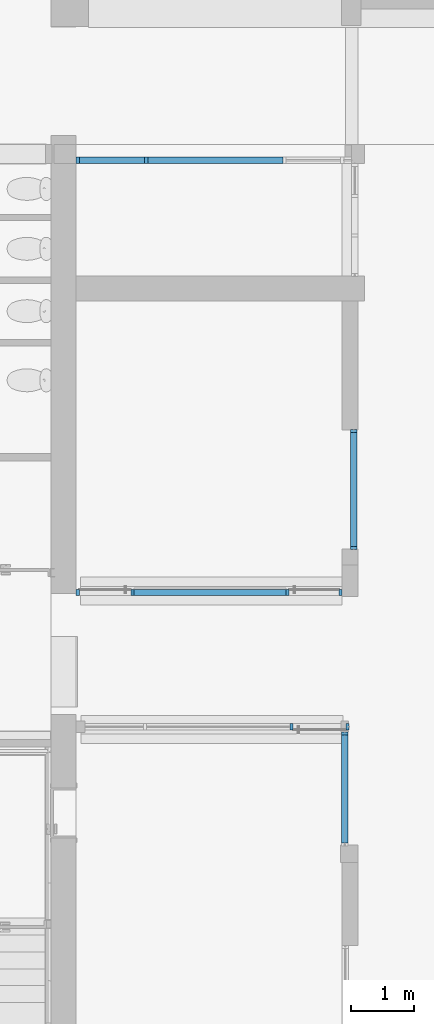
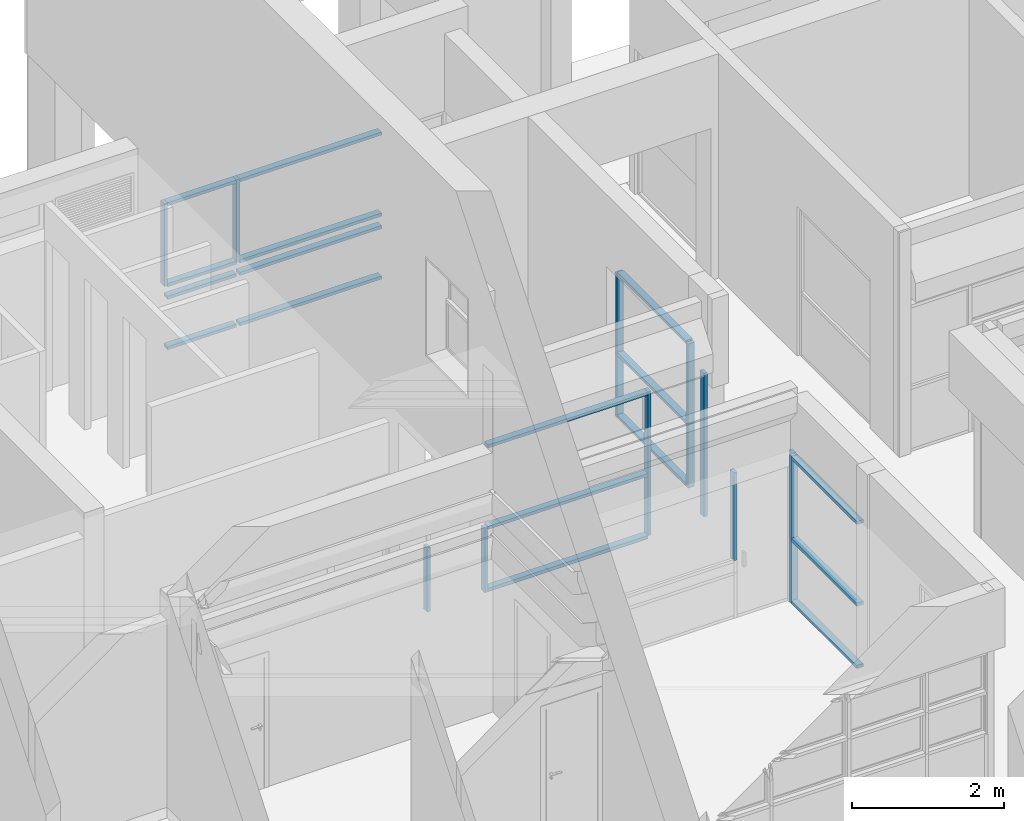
# One storey, part 4 of 117: 32 members, 5 elements without a shape of their own.
"""IFC4 building model written with IfcOpenShell, lengths in metres."""

from ifc_helpers import new_model, entity, si_unit, converted_unit, derived_unit, direction, frame, origin, place, context, subcontext, project, spatial, indexed_curve, outline, extrude, source, transform, mapped, material, type_object, type_shapes, element, aggregate, save


model = new_model("IFC4")

# Units and contexts
model_context = context("Model", 3, precision=1e-05, world=origin(), true_north=direction((6.123031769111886e-17, 1.0)))
body_context = subcontext(model_context, "Body", "Model", "MODEL_VIEW")
ifc_project = project(units=[si_unit("LENGTHUNIT", "METRE"), si_unit("AREAUNIT", "SQUARE_METRE"), si_unit("VOLUMEUNIT", "CUBIC_METRE"), converted_unit("PLANEANGLEUNIT", "DEGREE", entity("IfcRatioMeasure", 0.017453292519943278), si_unit("PLANEANGLEUNIT", "RADIAN"), dimensions=[0, 0, 0, 0, 0, 0, 0]), si_unit("MASSUNIT", "GRAM", prefix="KILO"), derived_unit("MASSDENSITYUNIT", [(si_unit("MASSUNIT", "GRAM", prefix="KILO"), 1), (si_unit("LENGTHUNIT", "METRE"), -3)]), derived_unit("MOMENTOFINERTIAUNIT", [(si_unit("LENGTHUNIT", "METRE"), 4)]), si_unit("TIMEUNIT", "SECOND"), si_unit("FREQUENCYUNIT", "HERTZ"), si_unit("THERMODYNAMICTEMPERATUREUNIT", "DEGREE_CELSIUS"), derived_unit("THERMALTRANSMITTANCEUNIT", [(si_unit("MASSUNIT", "GRAM", prefix="KILO"), 1), (si_unit("THERMODYNAMICTEMPERATUREUNIT", "KELVIN"), -1), (si_unit("TIMEUNIT", "SECOND"), -3)]), derived_unit("VOLUMETRICFLOWRATEUNIT", [(si_unit("LENGTHUNIT", "METRE"), 3), (si_unit("TIMEUNIT", "SECOND"), -1)]), derived_unit("MASSFLOWRATEUNIT", [(si_unit("MASSUNIT", "GRAM", prefix="KILO"), 1), (si_unit("TIMEUNIT", "SECOND"), -1)]), derived_unit("ROTATIONALFREQUENCYUNIT", [(si_unit("TIMEUNIT", "SECOND"), -1)]), si_unit("ELECTRICCURRENTUNIT", "AMPERE"), si_unit("ELECTRICVOLTAGEUNIT", "VOLT"), si_unit("POWERUNIT", "WATT"), si_unit("FORCEUNIT", "NEWTON", prefix="KILO"), si_unit("ILLUMINANCEUNIT", "LUX"), si_unit("LUMINOUSFLUXUNIT", "LUMEN"), si_unit("LUMINOUSINTENSITYUNIT", "CANDELA"), derived_unit("USERDEFINED", [(si_unit("MASSUNIT", "GRAM", prefix="KILO"), -1), (si_unit("LENGTHUNIT", "METRE"), -2), (si_unit("TIMEUNIT", "SECOND"), 3), (si_unit("LUMINOUSFLUXUNIT", "LUMEN"), 1)]), derived_unit("SOUNDPOWERUNIT", [(si_unit("MASSUNIT", "GRAM", prefix="KILO"), 1), (si_unit("LENGTHUNIT", "METRE"), 2), (si_unit("TIMEUNIT", "SECOND"), -3)]), derived_unit("SOUNDPRESSUREUNIT", [(si_unit("MASSUNIT", "GRAM", prefix="KILO"), 1), (si_unit("LENGTHUNIT", "METRE"), -1), (si_unit("TIMEUNIT", "SECOND"), -2)]), derived_unit("LINEARVELOCITYUNIT", [(si_unit("LENGTHUNIT", "METRE"), 1), (si_unit("TIMEUNIT", "SECOND"), -1)]), si_unit("PRESSUREUNIT", "PASCAL"), derived_unit("USERDEFINED", [(si_unit("LENGTHUNIT", "METRE"), -2), (si_unit("MASSUNIT", "GRAM", prefix="KILO"), 1), (si_unit("TIMEUNIT", "SECOND"), -2)]), derived_unit("LINEARFORCEUNIT", [(si_unit("MASSUNIT", "GRAM", prefix="KILO"), 1), (si_unit("LENGTHUNIT", "METRE"), 1), (si_unit("TIMEUNIT", "SECOND"), -2), (si_unit("LENGTHUNIT", "METRE"), -1)]), derived_unit("PLANARFORCEUNIT", [(si_unit("MASSUNIT", "GRAM", prefix="KILO"), 1), (si_unit("LENGTHUNIT", "METRE"), 1), (si_unit("TIMEUNIT", "SECOND"), -2), (si_unit("LENGTHUNIT", "METRE"), -2)])], contexts=[model_context])

# Site, building, storey
site_placement = place(None, origin())
site = spatial("IfcSite", under=ifc_project, at=site_placement, Name="Superficie", CompositionType="ELEMENT")
building_placement = place(site_placement, origin())
building = spatial("IfcBuilding", under=site, at=building_placement, CompositionType="ELEMENT")
storey_placement = place(building_placement, origin())
storey = spatial("IfcBuildingStorey", under=building, at=storey_placement, Name="Nivel 0", CompositionType="ELEMENT", Elevation=0.0)

# Curtain wall, member
curtain_wall_type = type_object("IfcCurtainWallType", Name="Muro cortina:Muro cortina - simple", PredefinedType="NOTDEFINED")
curtain_wall_1_placement = place(storey_placement, origin())
curtain_wall_1 = element("IfcCurtainWall", 1, at=curtain_wall_1_placement, inside=storey, type_object=curtain_wall_type, Name="Muro cortina:Muro cortina - simple", ObjectType="Muro cortina:Muro cortina - simple", PredefinedType="NOTDEFINED")
ifc_material = material(Name="<Unnamed>")
member_type_1 = type_object("IfcMemberType", Name="Montante rectangular:Montante rectangular - 5 x 10 cm", PredefinedType="MULLION", material=ifc_material)
shared_shape_1 = source(origin(), body_context, "Body", "SweptSolid", [
    extrude(outline(indexed_curve([(-0.05, -0.025), (0.05, -0.025), (0.05, 0.025), (-0.05, 0.025), (-0.05, -0.025)], self_intersect=False)), frame((0.0, 0.0, -1.0250000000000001), z_axis=(0.0, 0.0, 1.0), x_axis=(0.0, -1.0, 0.0)), (0.0, 0.0, 1.0), 1.0250000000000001),
])
type_shapes(member_type_1, [shared_shape_1])
member_1_placement = place(curtain_wall_1_placement, frame((-18.3532009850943, 3.4658292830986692, -0.004999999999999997), z_axis=(0.0, 0.0, -1.0), x_axis=(0.0, -1.0, 0.0)))
member_1 = element("IfcMember", 2, at=member_1_placement, type_object=member_type_1, material=ifc_material, Name="Montante rectangular:Montante rectangular - 5 x 10 cm", ObjectType="Montante rectangular:Montante rectangular - 5 x 10 cm", PredefinedType="MULLION", context=body_context, shape_type="MappedRepresentation", body=[
    mapped(shared_shape_1, transform((0.0, 0.0, 0.0), scale=1.0)),
])

curtain_wall_2_placement = place(storey_placement, origin())
curtain_wall_2 = element("IfcCurtainWall", 3, at=curtain_wall_2_placement, inside=storey, type_object=curtain_wall_type, Name="Muro cortina:Muro cortina - simple", ObjectType="Muro cortina:Muro cortina - simple", PredefinedType="NOTDEFINED")
member_2_placement = place(curtain_wall_2_placement, frame((-21.743200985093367, 5.715829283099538, -0.005000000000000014), z_axis=(0.0, 0.0, -1.0), x_axis=(1.0, 0.0, 0.0)))
member_2 = element("IfcMember", 4, at=member_2_placement, type_object=member_type_1, material=ifc_material, Name="Montante rectangular:Montante rectangular - 5 x 10 cm", ObjectType="Montante rectangular:Montante rectangular - 5 x 10 cm", PredefinedType="MULLION", context=body_context, shape_type="MappedRepresentation", body=[
    mapped(shared_shape_1, transform((0.0, 0.0, 0.0), scale=1.0)),
])

# Curtain wall, members
curtain_wall_3_placement = place(storey_placement, origin())
curtain_wall_3 = element("IfcCurtainWall", 5, at=curtain_wall_3_placement, inside=storey, type_object=curtain_wall_type, Name="Muro cortina:Muro cortina - simple", ObjectType="Muro cortina:Muro cortina - simple", PredefinedType="NOTDEFINED")
member_3_placement = place(curtain_wall_3_placement, frame((-18.208200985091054, 8.295829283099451, -0.005000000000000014), z_axis=(0.0, 0.0, -1.0), x_axis=(0.0, 1.0, 0.0)))
member_3 = element("IfcMember", 6, at=member_3_placement, type_object=member_type_1, material=ifc_material, Name="Montante rectangular:Montante rectangular - 5 x 10 cm", ObjectType="Montante rectangular:Montante rectangular - 5 x 10 cm", PredefinedType="MULLION", context=body_context, shape_type="MappedRepresentation", body=[
    mapped(shared_shape_1, transform((0.0, 0.0, 0.0), scale=1.0)),
])
member_4_placement = place(curtain_wall_3_placement, frame((-18.208200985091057, 6.429744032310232, -0.005000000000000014), z_axis=(0.0, 0.0, -1.0), x_axis=(0.0, 1.0, 0.0)))
member_4 = element("IfcMember", 7, at=member_4_placement, type_object=member_type_1, material=ifc_material, Name="Montante rectangular:Montante rectangular - 5 x 10 cm", ObjectType="Montante rectangular:Montante rectangular - 5 x 10 cm", PredefinedType="MULLION", context=body_context, shape_type="MappedRepresentation", body=[
    mapped(shared_shape_1, transform((0.0, 0.0, 0.0), scale=1.0)),
])

# Member
member_type_2 = type_object("IfcMemberType", Name="Montante rectangular:Montante rectangular - 5 x 10 cm", PredefinedType="MULLION", material=ifc_material)
shared_shape_2 = source(origin(), body_context, "Body", "SweptSolid", [
    extrude(outline(indexed_curve([(-0.05, -0.025), (0.05, -0.025), (0.05, 0.025), (-0.05, 0.025), (-0.05, -0.025)], self_intersect=False)), frame((0.0, 0.0, -1.7229835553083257), z_axis=(0.0, 0.0, 1.0), x_axis=(0.0, -1.0, 0.0)), (0.0, 0.0, 1.0), 1.7229835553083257),
])
type_shapes(member_type_2, [shared_shape_2])
member_5_placement = place(curtain_wall_1_placement, frame((-18.353200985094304, 1.7178457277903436, 0.020000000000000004), z_axis=(0.0, -1.0, 0.0), x_axis=(0.0, 0.0, 1.0)))
member_5 = element("IfcMember", 8, at=member_5_placement, type_object=member_type_2, material=ifc_material, Name="Montante rectangular:Montante rectangular - 5 x 10 cm", ObjectType="Montante rectangular:Montante rectangular - 5 x 10 cm", PredefinedType="MULLION", context=body_context, shape_type="MappedRepresentation", body=[
    mapped(shared_shape_2, transform((0.0, 0.0, 0.0), scale=1.0)),
])

member_6_placement = place(curtain_wall_1_placement, frame((-18.353200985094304, 1.7178457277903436, 2.33), z_axis=(0.0, -1.0, 0.0), x_axis=(0.0, 0.0, 1.0)))
member_6 = element("IfcMember", 9, at=member_6_placement, type_object=member_type_2, material=ifc_material, Name="Montante rectangular:Montante rectangular - 5 x 10 cm", ObjectType="Montante rectangular:Montante rectangular - 5 x 10 cm", PredefinedType="MULLION", context=body_context, shape_type="MappedRepresentation", body=[
    mapped(shared_shape_2, transform((0.0, 0.0, 0.0), scale=1.0)),
])

member_7_placement = place(curtain_wall_1_placement, frame((-18.353200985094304, 1.7178457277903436, 1.02), z_axis=(0.0, -1.0, 0.0), x_axis=(0.0, 0.0, 1.0)))
member_7 = element("IfcMember", 10, at=member_7_placement, type_object=member_type_2, material=ifc_material, Name="Montante rectangular:Montante rectangular - 5 x 10 cm", ObjectType="Montante rectangular:Montante rectangular - 5 x 10 cm", PredefinedType="MULLION", context=body_context, shape_type="MappedRepresentation", body=[
    mapped(shared_shape_2, transform((0.0, 0.0, 0.0), scale=1.0)),
])

member_type_3 = type_object("IfcMemberType", Name="Montante rectangular:Montante rectangular - 5 x 10 cm", PredefinedType="MULLION", material=ifc_material)
shared_shape_3 = source(origin(), body_context, "Body", "SweptSolid", [
    extrude(outline(indexed_curve([(-0.05, -0.025), (0.05, -0.025), (0.05, 0.025), (-0.05, 0.025), (-0.05, -0.025)], self_intersect=False)), frame((0.0, 0.0, -1.3350000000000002), z_axis=(0.0, 0.0, 1.0), x_axis=(0.0, -1.0, 0.0)), (0.0, 0.0, 1.0), 1.3350000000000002),
])
type_shapes(member_type_3, [shared_shape_3])
member_8_placement = place(curtain_wall_1_placement, frame((-18.3532009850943, 3.4658292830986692, 1.02), z_axis=(0.0, 0.0, -1.0), x_axis=(0.0, -1.0, 0.0)))
member_8 = element("IfcMember", 11, at=member_8_placement, type_object=member_type_3, material=ifc_material, Name="Montante rectangular:Montante rectangular - 5 x 10 cm", ObjectType="Montante rectangular:Montante rectangular - 5 x 10 cm", PredefinedType="MULLION", context=body_context, shape_type="MappedRepresentation", body=[
    mapped(shared_shape_3, transform((0.0, 0.0, 0.0), scale=1.0)),
])

aggregate(curtain_wall_1, [member_5, member_1, member_6, member_8, member_7])

member_type_4 = type_object("IfcMemberType", Name="Montante rectangular:Montante rectangular - 5 x 10 cm", PredefinedType="MULLION", material=ifc_material)
shared_shape_4 = source(origin(), body_context, "Body", "SweptSolid", [
    extrude(outline(indexed_curve([(-0.05, -0.025), (0.05, -0.025), (0.05, 0.025), (-0.05, 0.025), (-0.05, -0.025)], self_intersect=False)), frame((-0.025, 0.0, -2.305), z_axis=(0.0, 0.0, 1.0), x_axis=(0.0, -1.0, 0.0)), (0.0, 0.0, 1.0), 2.305),
])
type_shapes(member_type_4, [shared_shape_4])
member_9_placement = place(curtain_wall_2_placement, frame((-18.39320098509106, 5.715829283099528, 0.04499999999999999), z_axis=(0.0, 0.0, -1.0), x_axis=(1.0, 0.0, 0.0)))
member_9 = element("IfcMember", 12, at=member_9_placement, type_object=member_type_4, material=ifc_material, Name="Montante rectangular:Montante rectangular - 5 x 10 cm", ObjectType="Montante rectangular:Montante rectangular - 5 x 10 cm", PredefinedType="MULLION", context=body_context, shape_type="MappedRepresentation", body=[
    mapped(shared_shape_4, transform((0.0, 0.0, 0.0), scale=1.0)),
])

member_type_5 = type_object("IfcMemberType", Name="Montante rectangular:Montante rectangular - 5 x 10 cm", PredefinedType="MULLION", material=ifc_material)
shared_shape_5 = source(origin(), body_context, "Body", "SweptSolid", [
    extrude(outline(indexed_curve([(-0.05, -0.025), (0.05, -0.025), (0.05, 0.025), (-0.05, 0.025), (-0.05, -0.025)], self_intersect=False)), frame((-0.025, 0.0, -2.305), z_axis=(0.0, 0.0, 1.0), x_axis=(0.0, -1.0, 0.0)), (0.0, 0.0, 1.0), 2.305),
])
type_shapes(member_type_5, [shared_shape_5])
member_10_placement = place(curtain_wall_2_placement, frame((-19.29320098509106, 5.71582928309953, 2.35), z_axis=(0.0, 0.0, 1.0), x_axis=(-1.0, 0.0, 0.0)))
member_10 = element("IfcMember", 13, at=member_10_placement, type_object=member_type_5, material=ifc_material, Name="Montante rectangular:Montante rectangular - 5 x 10 cm", ObjectType="Montante rectangular:Montante rectangular - 5 x 10 cm", PredefinedType="MULLION", context=body_context, shape_type="MappedRepresentation", body=[
    mapped(shared_shape_5, transform((0.0, 0.0, 0.0), scale=1.0)),
])

member_type_6 = type_object("IfcMemberType", Name="Montante rectangular:Montante rectangular - 5 x 10 cm", PredefinedType="MULLION", material=ifc_material)
shared_shape_6 = source(origin(), body_context, "Body", "SweptSolid", [
    extrude(outline(indexed_curve([(-0.05, -0.025), (0.05, -0.025), (0.05, 0.025), (-0.05, 0.025), (-0.05, -0.025)], self_intersect=False)), frame((0.0, 0.0, -2.425000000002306), z_axis=(0.0, 0.0, 1.0), x_axis=(0.0, -1.0, 0.0)), (0.0, 0.0, 1.0), 2.425000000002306),
])
type_shapes(member_type_6, [shared_shape_6])
member_11_placement = place(curtain_wall_2_placement, frame((-19.29320098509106, 5.71582928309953, 0.019999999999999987), z_axis=(1.0, 0.0, 0.0), x_axis=(0.0, 0.0, 1.0)))
member_11 = element("IfcMember", 14, at=member_11_placement, type_object=member_type_6, material=ifc_material, Name="Montante rectangular:Montante rectangular - 5 x 10 cm", ObjectType="Montante rectangular:Montante rectangular - 5 x 10 cm", PredefinedType="MULLION", context=body_context, shape_type="MappedRepresentation", body=[
    mapped(shared_shape_6, transform((0.0, 0.0, 0.0), scale=1.0)),
])

member_type_7 = type_object("IfcMemberType", Name="Montante rectangular:Montante rectangular - 5 x 10 cm", PredefinedType="MULLION", material=ifc_material)
shared_shape_7 = source(origin(), body_context, "Body", "SweptSolid", [
    extrude(outline(indexed_curve([(-0.05, -0.025), (0.05, -0.025), (0.05, 0.025), (-0.05, 0.025), (-0.05, -0.025)], self_intersect=False)), frame((-0.025, 0.0, -2.4250000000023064), z_axis=(0.0, 0.0, 1.0), x_axis=(0.0, -1.0, 0.0)), (0.0, 0.0, 1.0), 2.425000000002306),
])
type_shapes(member_type_7, [shared_shape_7])
member_12_placement = place(curtain_wall_2_placement, frame((-19.29320098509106, 5.71582928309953, 2.35), z_axis=(1.0, 0.0, 0.0), x_axis=(0.0, 0.0, 1.0)))
member_12 = element("IfcMember", 15, at=member_12_placement, type_object=member_type_7, material=ifc_material, Name="Montante rectangular:Montante rectangular - 5 x 10 cm", ObjectType="Montante rectangular:Montante rectangular - 5 x 10 cm", PredefinedType="MULLION", context=body_context, shape_type="MappedRepresentation", body=[
    mapped(shared_shape_7, transform((0.0, 0.0, 0.0), scale=1.0)),
])

member_type_8 = type_object("IfcMemberType", Name="Montante rectangular:Montante rectangular - 5 x 10 cm", PredefinedType="MULLION", material=ifc_material)
shared_shape_8 = source(origin(), body_context, "Body", "SweptSolid", [
    extrude(outline(indexed_curve([(-0.05, -0.025), (0.05, -0.025), (0.05, 0.025), (-0.05, 0.025), (-0.05, -0.025)], self_intersect=False)), frame((0.0, 0.0, -2.4250000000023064), z_axis=(0.0, 0.0, 1.0), x_axis=(0.0, -1.0, 0.0)), (0.0, 0.0, 1.0), 2.425000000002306),
])
type_shapes(member_type_8, [shared_shape_8])
member_13_placement = place(curtain_wall_2_placement, frame((-19.29320098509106, 5.71582928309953, 1.0199999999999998), z_axis=(1.0, 0.0, 0.0), x_axis=(0.0, 0.0, 1.0)))
member_13 = element("IfcMember", 16, at=member_13_placement, type_object=member_type_8, material=ifc_material, Name="Montante rectangular:Montante rectangular - 5 x 10 cm", ObjectType="Montante rectangular:Montante rectangular - 5 x 10 cm", PredefinedType="MULLION", context=body_context, shape_type="MappedRepresentation", body=[
    mapped(shared_shape_8, transform((0.0, 0.0, 0.0), scale=1.0)),
])

member_type_9 = type_object("IfcMemberType", Name="Montante rectangular:Montante rectangular - 5 x 10 cm", PredefinedType="MULLION", material=ifc_material)
shared_shape_9 = source(origin(), body_context, "Body", "SweptSolid", [
    extrude(outline(indexed_curve([(-0.05, -0.025), (0.05, -0.025), (0.05, 0.025), (-0.05, 0.025), (-0.05, -0.025)], self_intersect=False)), frame((-0.025, 0.0, -1.0250000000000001), z_axis=(0.0, 0.0, 1.0), x_axis=(0.0, -1.0, 0.0)), (0.0, 0.0, 1.0), 1.0250000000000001),
])
type_shapes(member_type_9, [shared_shape_9])
member_14_placement = place(curtain_wall_2_placement, frame((-22.643200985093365, 5.715829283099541, 1.0200000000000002), z_axis=(0.0, 0.0, 1.0), x_axis=(-1.0, 0.0, 0.0)))
member_14 = element("IfcMember", 17, at=member_14_placement, type_object=member_type_9, material=ifc_material, Name="Montante rectangular:Montante rectangular - 5 x 10 cm", ObjectType="Montante rectangular:Montante rectangular - 5 x 10 cm", PredefinedType="MULLION", context=body_context, shape_type="MappedRepresentation", body=[
    mapped(shared_shape_9, transform((0.0, 0.0, 0.0), scale=1.0)),
])

member_type_10 = type_object("IfcMemberType", Name="Montante rectangular:Montante rectangular - 5 x 10 cm", PredefinedType="MULLION", material=ifc_material)
shared_shape_10 = source(origin(), body_context, "Body", "SweptSolid", [
    extrude(outline(indexed_curve([(-0.05, -0.025), (0.05, -0.025), (0.05, 0.025), (-0.05, 0.025), (-0.05, -0.025)], self_intersect=False)), frame((-0.025, 0.0, -2.4500000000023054), z_axis=(0.0, 0.0, 1.0), x_axis=(0.0, -1.0, 0.0)), (0.0, 0.0, 1.0), 2.4500000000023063),
])
type_shapes(member_type_10, [shared_shape_10])
member_15_placement = place(curtain_wall_2_placement, frame((-21.743200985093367, 5.715829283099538, 0.0), z_axis=(-1.0, 0.0, 0.0), x_axis=(0.0, 0.0, -1.0)))
member_15 = element("IfcMember", 18, at=member_15_placement, type_object=member_type_10, material=ifc_material, Name="Montante rectangular:Montante rectangular - 5 x 10 cm", ObjectType="Montante rectangular:Montante rectangular - 5 x 10 cm", PredefinedType="MULLION", context=body_context, shape_type="MappedRepresentation", body=[
    mapped(shared_shape_10, transform((0.0, 0.0, 0.0), scale=1.0)),
])

aggregate(curtain_wall_2, [member_9, member_10, member_11, member_12, member_13, member_14, member_15, member_2])

member_type_11 = type_object("IfcMemberType", Name="Montante rectangular:Montante rectangular - 5 x 10 cm", PredefinedType="MULLION", material=ifc_material)
shared_shape_11 = source(origin(), body_context, "Body", "SweptSolid", [
    extrude(outline(indexed_curve([(-0.05, -0.025), (0.05, -0.025), (0.05, 0.025), (-0.05, 0.025), (-0.05, -0.025)], self_intersect=False)), frame((0.0, 0.0, -1.8160852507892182), z_axis=(0.0, 0.0, 1.0), x_axis=(0.0, -1.0, 0.0)), (0.0, 0.0, 1.0), 1.816085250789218),
])
type_shapes(member_type_11, [shared_shape_11])
member_16_placement = place(curtain_wall_3_placement, frame((-18.208200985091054, 8.27082928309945, 1.0200000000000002), z_axis=(0.0, 1.0, 0.0), x_axis=(0.0, 0.0, 1.0)))
member_16 = element("IfcMember", 19, at=member_16_placement, type_object=member_type_11, material=ifc_material, Name="Montante rectangular:Montante rectangular - 5 x 10 cm", ObjectType="Montante rectangular:Montante rectangular - 5 x 10 cm", PredefinedType="MULLION", context=body_context, shape_type="MappedRepresentation", body=[
    mapped(shared_shape_11, transform((0.0, 0.0, 0.0), scale=1.0)),
])

member_17_placement = place(curtain_wall_3_placement, frame((-18.208200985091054, 8.27082928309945, 0.019999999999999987), z_axis=(0.0, 1.0, 0.0), x_axis=(0.0, 0.0, 1.0)))
member_17 = element("IfcMember", 20, at=member_17_placement, type_object=member_type_11, material=ifc_material, Name="Montante rectangular:Montante rectangular - 5 x 10 cm", ObjectType="Montante rectangular:Montante rectangular - 5 x 10 cm", PredefinedType="MULLION", context=body_context, shape_type="MappedRepresentation", body=[
    mapped(shared_shape_11, transform((0.0, 0.0, 0.0), scale=1.0)),
])

member_18_placement = place(curtain_wall_3_placement, frame((-18.208200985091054, 8.27082928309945, 2.3099999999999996), z_axis=(0.0, 1.0, 0.0), x_axis=(0.0, 0.0, 1.0)))
member_18 = element("IfcMember", 21, at=member_18_placement, type_object=member_type_11, material=ifc_material, Name="Montante rectangular:Montante rectangular - 5 x 10 cm", ObjectType="Montante rectangular:Montante rectangular - 5 x 10 cm", PredefinedType="MULLION", context=body_context, shape_type="MappedRepresentation", body=[
    mapped(shared_shape_11, transform((0.0, 0.0, 0.0), scale=1.0)),
])

member_type_12 = type_object("IfcMemberType", Name="Montante rectangular:Montante rectangular - 5 x 10 cm", PredefinedType="MULLION", material=ifc_material)
shared_shape_12 = source(origin(), body_context, "Body", "SweptSolid", [
    extrude(outline(indexed_curve([(-0.05, -0.025), (0.05, -0.025), (0.05, 0.025), (-0.05, 0.025), (-0.05, -0.025)], self_intersect=False)), frame((0.0, 0.0, -1.2899999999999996), z_axis=(0.0, 0.0, 1.0), x_axis=(0.0, -1.0, 0.0)), (0.0, 0.0, 1.0), 1.2899999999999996),
])
type_shapes(member_type_12, [shared_shape_12])
member_19_placement = place(curtain_wall_3_placement, frame((-18.208200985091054, 8.295829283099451, 1.0200000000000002), z_axis=(0.0, 0.0, -1.0), x_axis=(0.0, 1.0, 0.0)))
member_19 = element("IfcMember", 22, at=member_19_placement, type_object=member_type_12, material=ifc_material, Name="Montante rectangular:Montante rectangular - 5 x 10 cm", ObjectType="Montante rectangular:Montante rectangular - 5 x 10 cm", PredefinedType="MULLION", context=body_context, shape_type="MappedRepresentation", body=[
    mapped(shared_shape_12, transform((0.0, 0.0, 0.0), scale=1.0)),
])

member_20_placement = place(curtain_wall_3_placement, frame((-18.208200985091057, 6.429744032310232, 1.0200000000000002), z_axis=(0.0, 0.0, -1.0), x_axis=(0.0, 1.0, 0.0)))
member_20 = element("IfcMember", 23, at=member_20_placement, type_object=member_type_12, material=ifc_material, Name="Montante rectangular:Montante rectangular - 5 x 10 cm", ObjectType="Montante rectangular:Montante rectangular - 5 x 10 cm", PredefinedType="MULLION", context=body_context, shape_type="MappedRepresentation", body=[
    mapped(shared_shape_12, transform((0.0, 0.0, 0.0), scale=1.0)),
])

aggregate(curtain_wall_3, [member_16, member_19, member_3, member_17, member_20, member_4, member_18])

# Curtain wall, members
curtain_wall_4_placement = place(storey_placement, origin())
curtain_wall_4 = element("IfcCurtainWall", 24, at=curtain_wall_4_placement, inside=storey, type_object=curtain_wall_type, Name="Muro cortina:Muro cortina - simple", ObjectType="Muro cortina:Muro cortina - simple", PredefinedType="NOTDEFINED")
member_type_13 = type_object("IfcMemberType", Name="Montante rectangular:Montante rectangular - 5 x 10 cm", PredefinedType="MULLION", material=ifc_material)
shared_shape_13 = source(origin(), body_context, "Body", "SweptSolid", [
    extrude(outline(indexed_curve([(-0.05, -0.025), (0.05, -0.025), (0.05, 0.025), (-0.05, 0.025), (-0.05, -0.025)], self_intersect=False)), frame((0.0, 0.0, -2.1550000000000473), z_axis=(0.0, 0.0, 1.0), x_axis=(0.0, -1.0, 0.0)), (0.0, 0.0, 1.0), 2.1550000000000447),
])
type_shapes(member_type_13, [shared_shape_13])
member_21_placement = place(curtain_wall_4_placement, frame((-21.49820098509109, 12.620829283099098, 0.019999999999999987), z_axis=(-1.0, 0.0, 0.0), x_axis=(0.0, 0.0, 1.0)))
member_21 = element("IfcMember", 25, at=member_21_placement, type_object=member_type_13, material=ifc_material, Name="Montante rectangular:Montante rectangular - 5 x 10 cm", ObjectType="Montante rectangular:Montante rectangular - 5 x 10 cm", PredefinedType="MULLION", context=body_context, shape_type="MappedRepresentation", body=[
    mapped(shared_shape_13, transform((0.0, 0.0, 0.0), scale=1.0)),
])
member_22_placement = place(curtain_wall_4_placement, frame((-21.49820098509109, 12.620829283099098, 1.0299999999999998), z_axis=(-1.0, 0.0, 0.0), x_axis=(0.0, 0.0, 1.0)))
member_22 = element("IfcMember", 26, at=member_22_placement, type_object=member_type_13, material=ifc_material, Name="Montante rectangular:Montante rectangular - 5 x 10 cm", ObjectType="Montante rectangular:Montante rectangular - 5 x 10 cm", PredefinedType="MULLION", context=body_context, shape_type="MappedRepresentation", body=[
    mapped(shared_shape_13, transform((0.0, 0.0, 0.0), scale=1.0)),
])
member_23_placement = place(curtain_wall_4_placement, frame((-21.49820098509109, 12.620829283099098, 0.8299999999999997), z_axis=(-1.0, 0.0, 0.0), x_axis=(0.0, 0.0, 1.0)))
member_23 = element("IfcMember", 27, at=member_23_placement, type_object=member_type_13, material=ifc_material, Name="Montante rectangular:Montante rectangular - 5 x 10 cm", ObjectType="Montante rectangular:Montante rectangular - 5 x 10 cm", PredefinedType="MULLION", context=body_context, shape_type="MappedRepresentation", body=[
    mapped(shared_shape_13, transform((0.0, 0.0, 0.0), scale=1.0)),
])
member_24_placement = place(curtain_wall_4_placement, frame((-21.49820098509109, 12.620829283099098, 2.33), z_axis=(-1.0, 0.0, 0.0), x_axis=(0.0, 0.0, 1.0)))
member_24 = element("IfcMember", 28, at=member_24_placement, type_object=member_type_13, material=ifc_material, Name="Montante rectangular:Montante rectangular - 5 x 10 cm", ObjectType="Montante rectangular:Montante rectangular - 5 x 10 cm", PredefinedType="MULLION", context=body_context, shape_type="MappedRepresentation", body=[
    mapped(shared_shape_13, transform((0.0, 0.0, 0.0), scale=1.0)),
])
member_type_14 = type_object("IfcMemberType", Name="Montante rectangular:Montante rectangular - 5 x 10 cm", PredefinedType="MULLION", material=ifc_material)
shared_shape_14 = source(origin(), body_context, "Body", "SweptSolid", [
    extrude(outline(indexed_curve([(-0.05, -0.025), (0.05, -0.025), (0.05, 0.025), (-0.05, 0.025), (-0.05, -0.025)], self_intersect=False)), frame((0.0, 0.0, -1.0450000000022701), z_axis=(0.0, 0.0, 1.0), x_axis=(0.0, -1.0, 0.0)), (0.0, 0.0, 1.0), 1.0450000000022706),
])
type_shapes(member_type_14, [shared_shape_14])
member_25_placement = place(curtain_wall_4_placement, frame((-22.593200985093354, 12.6208292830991, 0.019999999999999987), z_axis=(-1.0, 0.0, 0.0), x_axis=(0.0, 0.0, 1.0)))
member_25 = element("IfcMember", 29, at=member_25_placement, type_object=member_type_14, material=ifc_material, Name="Montante rectangular:Montante rectangular - 5 x 10 cm", ObjectType="Montante rectangular:Montante rectangular - 5 x 10 cm", PredefinedType="MULLION", context=body_context, shape_type="MappedRepresentation", body=[
    mapped(shared_shape_14, transform((0.0, 0.0, 0.0), scale=1.0)),
])
member_26_placement = place(curtain_wall_4_placement, frame((-22.593200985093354, 12.6208292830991, 1.0299999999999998), z_axis=(-1.0, 0.0, 0.0), x_axis=(0.0, 0.0, 1.0)))
member_26 = element("IfcMember", 30, at=member_26_placement, type_object=member_type_14, material=ifc_material, Name="Montante rectangular:Montante rectangular - 5 x 10 cm", ObjectType="Montante rectangular:Montante rectangular - 5 x 10 cm", PredefinedType="MULLION", context=body_context, shape_type="MappedRepresentation", body=[
    mapped(shared_shape_14, transform((0.0, 0.0, 0.0), scale=1.0)),
])
member_27_placement = place(curtain_wall_4_placement, frame((-22.593200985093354, 12.6208292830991, 0.8299999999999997), z_axis=(-1.0, 0.0, 0.0), x_axis=(0.0, 0.0, 1.0)))
member_27 = element("IfcMember", 31, at=member_27_placement, type_object=member_type_14, material=ifc_material, Name="Montante rectangular:Montante rectangular - 5 x 10 cm", ObjectType="Montante rectangular:Montante rectangular - 5 x 10 cm", PredefinedType="MULLION", context=body_context, shape_type="MappedRepresentation", body=[
    mapped(shared_shape_14, transform((0.0, 0.0, 0.0), scale=1.0)),
])
member_28_placement = place(curtain_wall_4_placement, frame((-22.593200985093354, 12.6208292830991, 2.33), z_axis=(-1.0, 0.0, 0.0), x_axis=(0.0, 0.0, 1.0)))
member_28 = element("IfcMember", 32, at=member_28_placement, type_object=member_type_14, material=ifc_material, Name="Montante rectangular:Montante rectangular - 5 x 10 cm", ObjectType="Montante rectangular:Montante rectangular - 5 x 10 cm", PredefinedType="MULLION", context=body_context, shape_type="MappedRepresentation", body=[
    mapped(shared_shape_14, transform((0.0, 0.0, 0.0), scale=1.0)),
])
member_type_15 = type_object("IfcMemberType", Name="Montante rectangular:Montante rectangular - 5 x 10 cm", PredefinedType="MULLION", material=ifc_material)
shared_shape_15 = source(origin(), body_context, "Body", "SweptSolid", [
    extrude(outline(indexed_curve([(-0.05, -0.025), (0.05, -0.025), (0.05, 0.025), (-0.05, 0.025), (-0.05, -0.025)], self_intersect=False)), frame((0.0, 0.0, -1.3250000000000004), z_axis=(0.0, 0.0, 1.0), x_axis=(0.0, -1.0, 0.0)), (0.0, 0.0, 1.0), 1.3250000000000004),
])
type_shapes(member_type_15, [shared_shape_15])
member_29_placement = place(curtain_wall_4_placement, frame((-21.523200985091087, 12.620829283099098, 1.0299999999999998), z_axis=(0.0, 0.0, -1.0), x_axis=(-1.0, 0.0, 0.0)))
member_29 = element("IfcMember", 33, at=member_29_placement, type_object=member_type_15, material=ifc_material, Name="Montante rectangular:Montante rectangular - 5 x 10 cm", ObjectType="Montante rectangular:Montante rectangular - 5 x 10 cm", PredefinedType="MULLION", context=body_context, shape_type="MappedRepresentation", body=[
    mapped(shared_shape_15, transform((0.0, 0.0, 0.0), scale=1.0)),
])
member_type_16 = type_object("IfcMemberType", Name="Montante rectangular:Montante rectangular - 5 x 10 cm", PredefinedType="MULLION", material=ifc_material)
shared_shape_16 = source(origin(), body_context, "Body", "SweptSolid", [
    extrude(outline(indexed_curve([(-0.05, -0.025), (0.05, -0.025), (0.05, 0.025), (-0.05, 0.025), (-0.05, -0.025)], self_intersect=False)), frame((-0.025, 0.0, -1.3250000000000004), z_axis=(0.0, 0.0, 1.0), x_axis=(0.0, -1.0, 0.0)), (0.0, 0.0, 1.0), 1.3250000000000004),
])
type_shapes(member_type_16, [shared_shape_16])
member_30_placement = place(curtain_wall_4_placement, frame((-22.643200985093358, 12.6208292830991, 1.0299999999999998), z_axis=(0.0, 0.0, -1.0), x_axis=(-1.0, 0.0, 0.0)))
member_30 = element("IfcMember", 34, at=member_30_placement, type_object=member_type_16, material=ifc_material, Name="Montante rectangular:Montante rectangular - 5 x 10 cm", ObjectType="Montante rectangular:Montante rectangular - 5 x 10 cm", PredefinedType="MULLION", context=body_context, shape_type="MappedRepresentation", body=[
    mapped(shared_shape_16, transform((0.0, 0.0, 0.0), scale=1.0)),
])
aggregate(curtain_wall_4, [member_21, member_25, member_29, member_30, member_22, member_26, member_23, member_27, member_24, member_28])

curtain_wall_5_placement = place(storey_placement, origin())
curtain_wall_5 = element("IfcCurtainWall", 35, at=curtain_wall_5_placement, inside=storey, type_object=curtain_wall_type, Name="Muro cortina:Muro cortina - simple", ObjectType="Muro cortina:Muro cortina - simple", PredefinedType="NOTDEFINED")
member_type_17 = type_object("IfcMemberType", Name="Montante rectangular:Montante rectangular - 5 x 10 cm", PredefinedType="MULLION", material=ifc_material)
shared_shape_17 = source(origin(), body_context, "Body", "SweptSolid", [
    extrude(outline(indexed_curve([(-0.05, -0.025), (0.05, -0.025), (0.05, 0.025), (-0.05, 0.025), (-0.05, -0.025)], self_intersect=False)), frame((0.0, 0.0, -1.4099999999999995), z_axis=(0.0, 0.0, 1.0), x_axis=(0.0, -1.0, 0.0)), (0.0, 0.0, 1.0), 1.4099999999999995),
])
type_shapes(member_type_17, [shared_shape_17])
member_31_placement = place(curtain_wall_5_placement, frame((-19.203200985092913, 3.570829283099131, 0.92), z_axis=(0.0, 0.0, -1.0), x_axis=(-1.0, 0.0, 0.0)))
member_31 = element("IfcMember", 36, at=member_31_placement, type_object=member_type_17, material=ifc_material, Name="Montante rectangular:Montante rectangular - 5 x 10 cm", ObjectType="Montante rectangular:Montante rectangular - 5 x 10 cm", PredefinedType="MULLION", context=body_context, shape_type="MappedRepresentation", body=[
    mapped(shared_shape_17, transform((0.0, 0.0, 0.0), scale=1.0)),
])
member_type_18 = type_object("IfcMemberType", Name="Montante rectangular:Montante rectangular - 5 x 10 cm", PredefinedType="MULLION", material=ifc_material)
shared_shape_18 = source(origin(), body_context, "Body", "SweptSolid", [
    extrude(outline(indexed_curve([(-0.05, -0.025), (0.05, -0.025), (0.05, 0.025), (-0.05, 0.025), (-0.05, -0.025)], self_intersect=False)), frame((-0.025, 0.0, -1.4099999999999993), z_axis=(0.0, 0.0, 1.0), x_axis=(0.0, -1.0, 0.0)), (0.0, 0.0, 1.0), 1.4099999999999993),
])
type_shapes(member_type_18, [shared_shape_18])
member_32_placement = place(curtain_wall_5_placement, frame((-18.283200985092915, 3.570829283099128, 2.3299999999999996)))
member_32 = element("IfcMember", 37, at=member_32_placement, type_object=member_type_18, material=ifc_material, Name="Montante rectangular:Montante rectangular - 5 x 10 cm", ObjectType="Montante rectangular:Montante rectangular - 5 x 10 cm", PredefinedType="MULLION", context=body_context, shape_type="MappedRepresentation", body=[
    mapped(shared_shape_18, transform((0.0, 0.0, 0.0), scale=1.0)),
])
aggregate(curtain_wall_5, [member_31, member_32])

save(model, "model.ifc")
